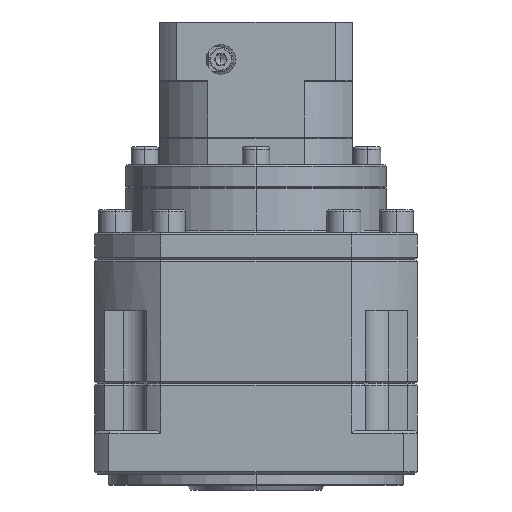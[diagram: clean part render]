
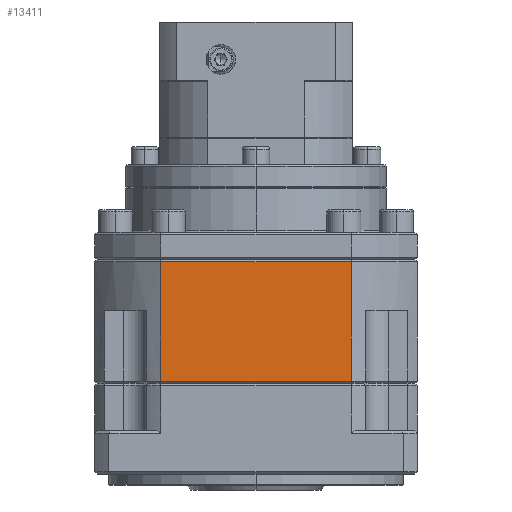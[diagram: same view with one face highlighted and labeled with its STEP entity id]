
A CAD part, left-side view. The second image highlights one B-rep face of the part: STEP entity #13411.
In plain terms, the highlighted planar face has unit normal (-1, 0, 0).
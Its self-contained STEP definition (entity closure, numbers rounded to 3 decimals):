
#782 = CARTESIAN_POINT ( 'NONE',  ( -160.809, -57.62, -152.953 ) ) ;
#2092 = CARTESIAN_POINT ( 'NONE',  ( -160.809, 55.395, -152.953 ) ) ;
#4867 = DIRECTION ( 'NONE',  ( 1., 0., 0. ) ) ;
#5501 = VERTEX_POINT ( 'NONE', #104953 ) ;
#6091 = CARTESIAN_POINT ( 'NONE',  ( -160.809, -57.62, -99.453 ) ) ;
#6573 = CARTESIAN_POINT ( 'NONE',  ( -160.809, 55.395, 136.225 ) ) ;
#13411 = ADVANCED_FACE ( 'NONE', ( #18715 ), #88847, .F. ) ;
#18715 = FACE_OUTER_BOUND ( 'NONE', #97613, .T. ) ;
#19507 = LINE ( 'NONE', #782, #105814 ) ;
#19514 = CARTESIAN_POINT ( 'NONE',  ( -160.809, 55.395, -100.453 ) ) ;
#20225 = AXIS2_PLACEMENT_3D ( 'NONE', #6091, #4867, #96467 ) ;
#22495 = EDGE_CURVE ( 'NONE', #62893, #5501, #106311, .T. ) ;
#28782 = DIRECTION ( 'NONE',  ( 0., 1., 0. ) ) ;
#31388 = EDGE_CURVE ( 'NONE', #100178, #52609, #47522, .T. ) ;
#35511 = CARTESIAN_POINT ( 'NONE',  ( -160.809, -28.635, -152.953 ) ) ;
#35785 = DIRECTION ( 'NONE',  ( 0., -1., 0. ) ) ;
#36649 = EDGE_CURVE ( 'NONE', #62893, #52609, #19507, .T. ) ;
#40939 = ORIENTED_EDGE ( 'NONE', *, *, #31388, .F. ) ;
#47522 = LINE ( 'NONE', #61202, #118053 ) ;
#52609 = VERTEX_POINT ( 'NONE', #35511 ) ;
#58078 = VECTOR ( 'NONE', #28782, 1000. ) ;
#61202 = CARTESIAN_POINT ( 'NONE',  ( -160.809, -28.635, 136.225 ) ) ;
#62893 = VERTEX_POINT ( 'NONE', #2092 ) ;
#69374 = ORIENTED_EDGE ( 'NONE', *, *, #36649, .T. ) ;
#71291 = ORIENTED_EDGE ( 'NONE', *, *, #22495, .F. ) ;
#71531 = DIRECTION ( 'NONE',  ( 0., 0., 1. ) ) ;
#71923 = DIRECTION ( 'NONE',  ( 0., 0., -1. ) ) ;
#88847 = PLANE ( 'NONE',  #20225 ) ;
#89677 = LINE ( 'NONE', #19514, #58078 ) ;
#92496 = CARTESIAN_POINT ( 'NONE',  ( -160.809, -28.635, -100.453 ) ) ;
#94821 = ORIENTED_EDGE ( 'NONE', *, *, #98272, .T. ) ;
#96467 = DIRECTION ( 'NONE',  ( 0., 0., -1. ) ) ;
#97613 = EDGE_LOOP ( 'NONE', ( #40939, #94821, #71291, #69374 ) ) ;
#98272 = EDGE_CURVE ( 'NONE', #100178, #5501, #89677, .T. ) ;
#100178 = VERTEX_POINT ( 'NONE', #92496 ) ;
#104953 = CARTESIAN_POINT ( 'NONE',  ( -160.809, 55.395, -100.453 ) ) ;
#105814 = VECTOR ( 'NONE', #35785, 1000. ) ;
#106311 = LINE ( 'NONE', #6573, #116318 ) ;
#116318 = VECTOR ( 'NONE', #71531, 1000. ) ;
#118053 = VECTOR ( 'NONE', #71923, 1000. ) ;
